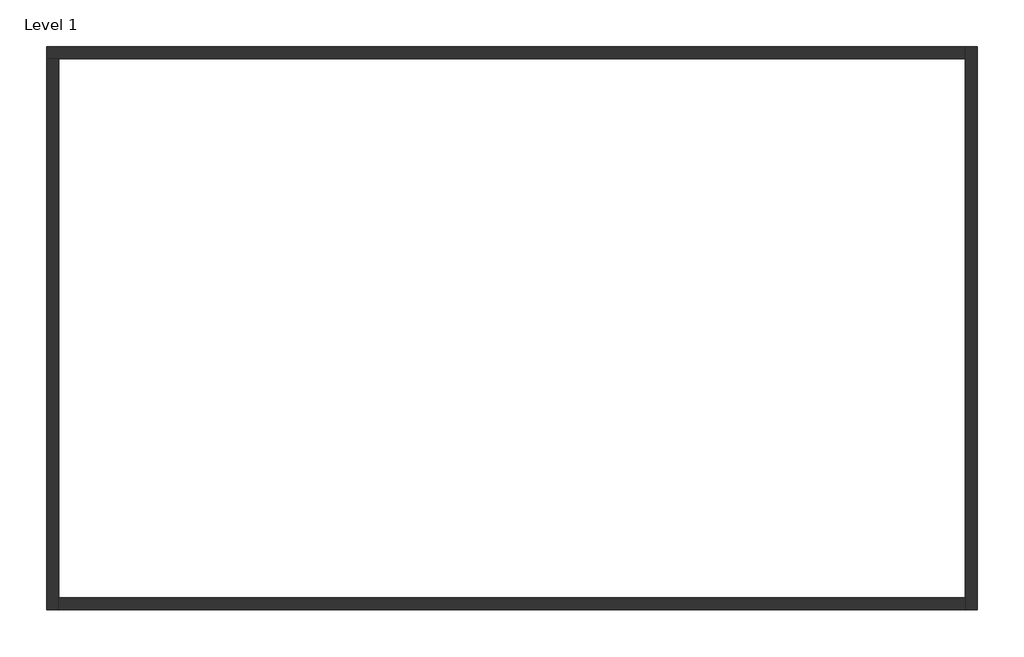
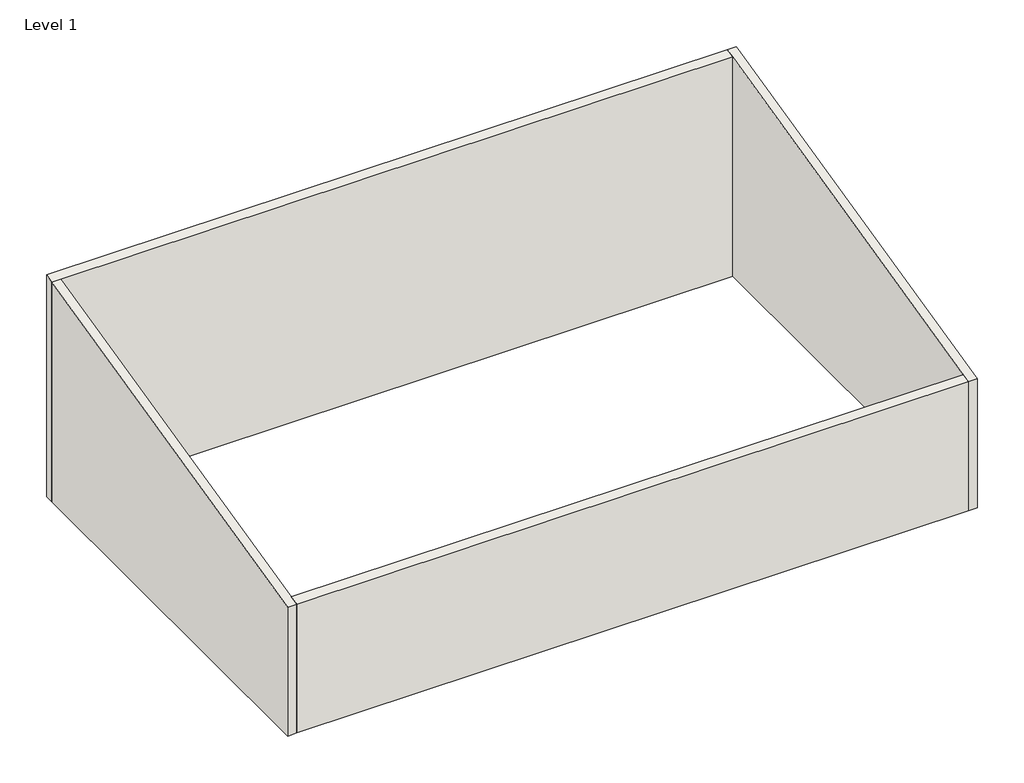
# One storey: 4 walls.
"""IFC4 building model written with IfcOpenShell, lengths in millimetres."""

import ifcopenshell
import ifcopenshell.guid

model = None  # the IFC model being written
_history = None  # IfcOwnerHistory: only IFC2X3 demands one
_inside = {}  # id of a spatial element -> (the spatial element, [elements in it])
_under = {}  # id of a project, library or spatial element -> (it, [spatial elements below it])
_declared = {}  # id of a project -> (the project, [libraries it declares])
_typed = {}  # id of a type object -> (the type object, [elements of that type])
_made_of = {}  # id of a material, layer set ... -> (it, [elements and type objects made of it])


def new_model(schema):
    """Start an empty IFC model of exactly this schema.

    Asked for "IFC4X3", IfcOpenShell would pick the latest addendum, in which some entities
    have other attributes; the version numbers below select the first issue.
    IFC2X3 requires an IfcOwnerHistory on every rooted entity: one is made here for all.
    """
    global model, _history
    if schema == "IFC4X3":
        model = ifcopenshell.file(schema_version=(4, 3, 0, 0))
    else:
        model = ifcopenshell.file(schema=schema)
    _inside.clear()
    _under.clear()
    _declared.clear()
    _typed.clear()
    _made_of.clear()
    _history = None
    if model.schema == "IFC2X3":
        org = make("IfcOrganization", Name="unknown")
        user = make(
            "IfcPersonAndOrganization",
            ThePerson=make("IfcPerson", FamilyName="unknown"),
            TheOrganization=org,
        )
        app = make(
            "IfcApplication",
            ApplicationDeveloper=org,
            Version="unknown",
            ApplicationFullName="unknown",
            ApplicationIdentifier="unknown",
        )
        _history = make(
            "IfcOwnerHistory",
            OwningUser=user,
            OwningApplication=app,
            ChangeAction="ADDED",
            CreationDate=0,
        )
    return model


def make(cls, **values):
    """One entity of the class cls with the attributes given. An attribute that is None is left unset."""
    return model.create_entity(
        cls, **{name: value for name, value in values.items() if value is not None}
    )


def rooted(cls, **values):
    """An entity with a GlobalId (a new one), such as an element, a storey or a relation."""
    return make(cls, GlobalId=ifcopenshell.guid.new(), OwnerHistory=_history, **values)


def si_unit(unit_type, name, prefix=None):
    """IfcSIUnit, for example si_unit("LENGTHUNIT", "METRE", prefix="MILLI")."""
    return make("IfcSIUnit", UnitType=unit_type, Prefix=prefix, Name=name)


def assignment(units):
    """IfcUnitAssignment: the units of a project."""
    return None if units is None else make("IfcUnitAssignment", Units=units)


def point(xyz):
    """IfcCartesianPoint."""
    return None if xyz is None else make("IfcCartesianPoint", Coordinates=xyz)


def direction(xyz):
    """IfcDirection."""
    return None if xyz is None else make("IfcDirection", DirectionRatios=xyz)


def frame(location, z_axis=None, x_axis=None):
    """IfcAxis2Placement3D, a coordinate frame: its origin and axes. An axis left out is left unset."""
    return make(
        "IfcAxis2Placement3D",
        Location=point(location),
        Axis=direction(z_axis),
        RefDirection=direction(x_axis),
    )


def origin():
    """The frame at (0, 0, 0) with its axes left unset."""
    return frame((0.0, 0.0, 0.0))


def place(relative_to, where):
    """IfcLocalPlacement: puts the frame where relative to a parent placement (None: the world)."""
    return make(
        "IfcLocalPlacement", PlacementRelTo=relative_to, RelativePlacement=where
    )


def context(
    kind, dimensions, precision=None, world=None, true_north=None, identifier=None
):
    """IfcGeometricRepresentationContext, for example the 3D "Model" context."""
    return make(
        "IfcGeometricRepresentationContext",
        ContextIdentifier=identifier,
        ContextType=kind,
        CoordinateSpaceDimension=dimensions,
        Precision=precision,
        WorldCoordinateSystem=world,
        TrueNorth=true_north,
    )


def project(units=None, contexts=None):
    """IfcProject with its units and contexts."""
    return rooted(
        "IfcProject",
        Name="project",
        RepresentationContexts=contexts,
        UnitsInContext=assignment(units),
    )


def spatial(cls, under=None, at=None, **own):
    """A site, building, storey or space (cls), placed at a placement, below another one or the project."""
    s = rooted(cls, ObjectPlacement=at, **own)
    if under is not None:
        _under.setdefault(under.id(), (under, []))[1].append(s)
    return s


def polyline(points):
    """IfcPolyline through the points."""
    return make("IfcPolyline", Points=[point(p) for p in points])


def outline(outer, holes=None, kind="AREA"):
    """IfcArbitraryClosedProfileDef: a profile drawn as a closed curve; with holes, ...WithVoids."""
    if holes is None:
        return make("IfcArbitraryClosedProfileDef", ProfileType=kind, OuterCurve=outer)
    return make(
        "IfcArbitraryProfileDefWithVoids",
        ProfileType=kind,
        OuterCurve=outer,
        InnerCurves=holes,
    )


def extrude(swept, where, along, depth):
    """IfcExtrudedAreaSolid: the profile swept, set in the frame where, extruded along a direction by depth."""
    return make(
        "IfcExtrudedAreaSolid",
        SweptArea=swept,
        Position=where,
        ExtrudedDirection=direction(along),
        Depth=depth,
    )


def faces_of(points, faces, orient=None, outer=None):
    """IfcFace entities. A face is a list of loops; a loop is a list of indices into points, from 0.

    orient and outer hold one flag for each loop. By default every Orientation is true, the
    first loop of a face is its IfcFaceOuterBound and the others are IfcFaceBound.
    """
    made = []
    for i, loops in enumerate(faces):
        bounds = []
        for j, loop in enumerate(loops):
            is_outer = j == 0 if outer is None else outer[i][j]
            bounds.append(
                make(
                    "IfcFaceOuterBound" if is_outer else "IfcFaceBound",
                    Bound=make("IfcPolyLoop", Polygon=[points[k] for k in loop]),
                    Orientation=True if orient is None else orient[i][j],
                )
            )
        made.append(make("IfcFace", Bounds=bounds))
    return made


def faceted_brep(points, faces, orient=None, outer=None, voids=None):
    """IfcFacetedBrep: a solid bounded by flat faces; with voids (closed shells), ...WithVoids."""
    shared = [point(p) for p in points]
    hull = make("IfcClosedShell", CfsFaces=faces_of(shared, faces, orient, outer))
    if voids is None:
        return make("IfcFacetedBrep", Outer=hull)
    return make(
        "IfcFacetedBrepWithVoids",
        Outer=hull,
        Voids=[
            make(cls, CfsFaces=faces_of(shared, fs, o, b)) for cls, fs, o, b in voids
        ],
    )


def shape(context_of_items, identifier, shape_type, items):
    """IfcShapeRepresentation: the items that make up one representation, for example the "Body"."""
    return make(
        "IfcShapeRepresentation",
        ContextOfItems=context_of_items,
        RepresentationIdentifier=identifier,
        RepresentationType=shape_type,
        Items=items,
    )


def made_of(thing, what):
    """Note that an element or type object is made of a material, layer set ...; save() writes the relation."""
    if what is not None:
        _made_of.setdefault(what.id(), (what, []))[1].append(thing)
    return thing


def element(
    cls,
    number,
    at=None,
    inside=None,
    cuts=None,
    type_object=None,
    material=None,
    context=None,
    identifier="Body",
    shape_type=None,
    held_by="IfcProductDefinitionShape",
    body=None,
    shapes=None,
    **own,
):
    """One element of the class cls, such as IfcWall. Its Tag is "e" and its number.

    at: its placement. inside: the storey or other place that contains it. cuts: it is an
    opening in that element (IfcRelVoidsElement). A single representation is given by context,
    identifier, shape_type and body (its items); several are given by shapes. held_by: the class
    of the entity that holds the representations. save() writes the other relations.
    """
    e = rooted(cls, Tag="e%d" % number, ObjectPlacement=at, **own)
    if body is not None:
        shapes = [shape(context, identifier, shape_type, body)]
    if shapes is not None:
        e.Representation = make(held_by, Representations=shapes)
    if inside is not None:
        _inside.setdefault(inside.id(), (inside, []))[1].append(e)
    if cuts is not None:
        rooted(
            "IfcRelVoidsElement", RelatingBuildingElement=cuts, RelatedOpeningElement=e
        )
    if type_object is not None:
        _typed.setdefault(type_object.id(), (type_object, []))[1].append(e)
    return made_of(e, material)


def aggregate(whole, parts):
    """IfcRelAggregates: a whole, such as a stair, and the parts it consists of."""
    return rooted("IfcRelAggregates", RelatingObject=whole, RelatedObjects=parts)


def save(model, path):
    """Write the relations noted so far, then the file.

    IfcRelAggregates (storeys below a building ...), IfcRelContainedInSpatialStructure (elements
    in a storey), IfcRelDefinesByType, IfcRelAssociatesMaterial and IfcRelDeclares: one each for
    every whole, place, type object, material and project.
    """
    for whole, parts in _under.values():
        aggregate(whole, parts)
    for where, things in _inside.values():
        rooted(
            "IfcRelContainedInSpatialStructure",
            RelatedElements=things,
            RelatingStructure=where,
        )
    for kind, things in _typed.values():
        rooted("IfcRelDefinesByType", RelatedObjects=things, RelatingType=kind)
    for what, things in _made_of.values():
        rooted("IfcRelAssociatesMaterial", RelatedObjects=things, RelatingMaterial=what)
    for by, libraries in _declared.values():
        rooted("IfcRelDeclares", RelatingContext=by, RelatedDefinitions=libraries)
    model.write(path)


model = new_model("IFC4")

# Units and contexts
model_context = context("Model", 3, world=origin())
ifc_project = project(units=[si_unit("LENGTHUNIT", "METRE", prefix="MILLI")], contexts=[model_context])

# Site, building, storey
site = spatial("IfcSite", under=ifc_project)
building = spatial("IfcBuilding", under=site)
storey = spatial("IfcBuildingStorey", under=building, Name="Level 1", Elevation=0.0)

# Walls
placement = place(None, origin())
element("IfcWall", 1, ObjectType="Generic - 8\"", at=placement, inside=storey, context=model_context, shape_type="Brep", body=[
    faceted_brep([(-7596.1466991, 6927.4122484, 0.0), (-7392.9466991, 6927.4122484, 0.0), (7643.8533009, 6927.4122484, 0.0), (7643.8533009, 6927.4122484, 5195.135579), (-7392.9466991, 6927.4122484, 5195.135579), (-7596.1466991, 6927.4122484, 5195.135579), (-7596.1466991, 7130.6122484, 0.0), (-7596.1466991, 7130.6122484, 5242.849703), (7643.8533009, 7130.6122484, 5242.849703), (7643.8533009, 7130.6122484, 0.0)], [[[0, 1, 2, 3, 4, 5]], [[6, 7, 8, 9]], [[2, 1, 0, 6, 9]], [[0, 5, 7, 6]], [[3, 2, 9, 8]], [[5, 4, 3, 8, 7]]]),
])
element("IfcWall", 2, ObjectType="Generic - 8\"", at=placement, inside=storey, context=model_context, shape_type="Brep", body=[
    faceted_brep([(-7392.9466991, -2216.5877516, 0.0), (-7392.9466991, -2013.3877516, 0.0), (-7392.9466991, 6927.4122484, 0.0), (-7392.9466991, 6927.4122484, 5195.135579), (-7392.9466991, -2013.3877516, 3095.714124), (-7392.9466991, -2216.5877516, 3048.0), (-7596.1466991, -2216.5877516, 0.0), (-7596.1466991, -2216.5877516, 3048.0), (-7596.1466991, 6927.4122484, 5195.135579), (-7596.1466991, 6927.4122484, 0.0)], [[[0, 1, 2, 3, 4, 5]], [[6, 7, 8, 9]], [[2, 1, 0, 6, 9]], [[0, 5, 7, 6]], [[3, 2, 9, 8]], [[5, 4, 3, 8, 7]]]),
])
element("IfcWall", 3, ObjectType="Generic - 8\"", at=placement, inside=storey, context=model_context, shape_type="SweptSolid", body=[
    extrude(outline(polyline([(-2013.3877516, 3095.714124), (-2013.3877516, 0.0), (-2216.5877516, 0.0), (-2216.5877516, 3048.0), (-2013.3877516, 3095.714124)])), frame((-7392.9466991, 0.0, 0.0), z_axis=(1.0, 0.0, 0.0), x_axis=(0.0, 1.0, 0.0)), (0.0, 0.0, 1.0), 15036.8),
])
element("IfcWall", 4, ObjectType="Generic - 8\"", at=placement, inside=storey, context=model_context, shape_type="Brep", body=[
    faceted_brep([(7643.8533009, 7130.6122484, 0.0), (7643.8533009, 6927.4122484, 0.0), (7643.8533009, -2013.3877516, 0.0), (7643.8533009, -2216.5877516, 0.0), (7643.8533009, -2216.5877516, 3048.0), (7643.8533009, -2013.3877516, 3095.714124), (7643.8533009, 6927.4122484, 5195.135579), (7643.8533009, 7130.6122484, 5242.849703), (7847.0533009, 7130.6122484, 0.0), (7847.0533009, 7130.6122484, 5242.849703), (7847.0533009, -2216.5877516, 3048.0), (7847.0533009, -2216.5877516, 0.0)], [[[0, 1, 2, 3, 4, 5, 6, 7]], [[8, 9, 10, 11]], [[3, 2, 1, 0, 8, 11]], [[0, 7, 9, 8]], [[4, 3, 11, 10]], [[7, 6, 5, 4, 10, 9]]]),
])

save(model, "model.ifc")
